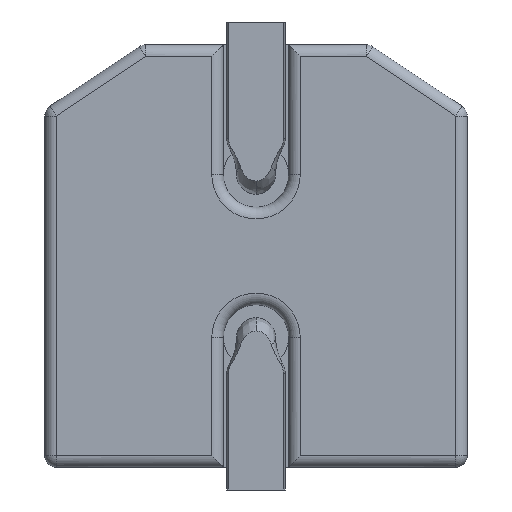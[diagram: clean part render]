
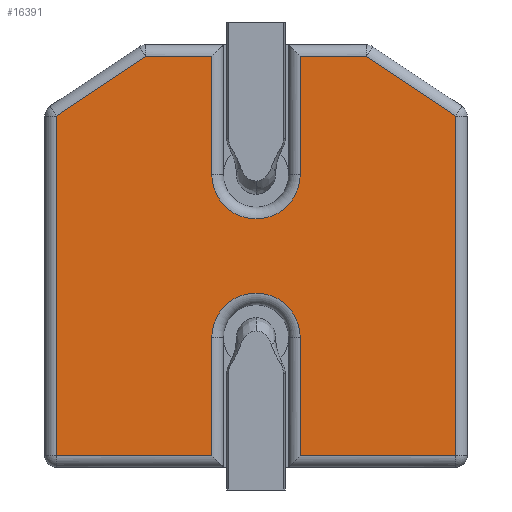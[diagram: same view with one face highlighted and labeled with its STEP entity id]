
A CAD part, left-side view. The second image highlights one B-rep face of the part: STEP entity #16391.
In plain terms, the highlighted planar face has unit normal (-1, 0, 0) as drawn and (0, -1, 0) by its records, which use the part's own axes.
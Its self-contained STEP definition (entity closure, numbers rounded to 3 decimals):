
#14966=DIRECTION('',(-0.832,0.,0.555));
#14967=VECTOR('',#14966,1.652);
#14968=CARTESIAN_POINT('',(3.07,0.,2.154));
#14969=LINE('',#14968,#14967);
#14970=DIRECTION('',(0.,0.,1.));
#14971=VECTOR('',#14970,5.224);
#14972=CARTESIAN_POINT('',(3.07,0.,-3.07));
#14973=LINE('',#14972,#14971);
#14974=DIRECTION('',(1.,0.,0.));
#14975=VECTOR('',#14974,2.39);
#14976=CARTESIAN_POINT('',(0.68,0.,-3.07));
#14977=LINE('',#14976,#14975);
#14978=DIRECTION('',(0.,0.,-1.));
#14979=VECTOR('',#14978,1.82);
#14980=CARTESIAN_POINT('',(0.68,0.,-1.25));
#14981=LINE('',#14980,#14979);
#14982=DIRECTION('',(0.,0.,1.));
#14983=VECTOR('',#14982,1.82);
#14984=CARTESIAN_POINT('',(-0.68,0.,-3.07));
#14985=LINE('',#14984,#14983);
#14986=DIRECTION('',(1.,0.,0.));
#14987=VECTOR('',#14986,2.39);
#14988=CARTESIAN_POINT('',(-3.07,0.,-3.07));
#14989=LINE('',#14988,#14987);
#14990=DIRECTION('',(0.,0.,-1.));
#14991=VECTOR('',#14990,5.224);
#14992=CARTESIAN_POINT('',(-3.07,0.,2.154));
#14993=LINE('',#14992,#14991);
#14994=DIRECTION('',(0.832,0.,0.555));
#14995=VECTOR('',#14994,1.652);
#14996=CARTESIAN_POINT('',(-3.07,0.,2.154));
#14997=LINE('',#14996,#14995);
#14998=DIRECTION('',(-1.,0.,0.));
#14999=VECTOR('',#14998,1.016);
#15000=CARTESIAN_POINT('',(-0.68,0.,3.07));
#15001=LINE('',#15000,#14999);
#15002=DIRECTION('',(0.,0.,1.));
#15003=VECTOR('',#15002,1.82);
#15004=CARTESIAN_POINT('',(-0.68,0.,1.25));
#15005=LINE('',#15004,#15003);
#15006=DIRECTION('',(0.,0.,-1.));
#15007=VECTOR('',#15006,1.82);
#15008=CARTESIAN_POINT('',(0.68,0.,3.07));
#15009=LINE('',#15008,#15007);
#15010=DIRECTION('',(-1.,0.,0.));
#15011=VECTOR('',#15010,1.016);
#15012=CARTESIAN_POINT('',(1.696,0.,3.07));
#15013=LINE('',#15012,#15011);
#15044=CARTESIAN_POINT('',(0.68,0.,3.07));
#15046=CARTESIAN_POINT('',(0.,0.,1.25));
#15047=DIRECTION('',(0.,1.,0.));
#15048=DIRECTION('',(1.,0.,0.));
#15049=AXIS2_PLACEMENT_3D('',#15046,#15047,#15048);
#15128=CARTESIAN_POINT('',(-0.68,0.,-3.07));
#15130=CARTESIAN_POINT('',(0.,0.,-1.25));
#15131=DIRECTION('',(0.,1.,0.));
#15132=DIRECTION('',(-1.,0.,0.));
#15133=AXIS2_PLACEMENT_3D('',#15130,#15131,#15132);
#15150=CARTESIAN_POINT('',(0.68,0.,-3.07));
#16178=CARTESIAN_POINT('',(-3.07,0.,-3.07));
#16180=VERTEX_POINT('',#16178);
#16189=VERTEX_POINT('',#15128);
#16190=CARTESIAN_POINT('',(3.07,0.,-3.07));
#16192=VERTEX_POINT('',#16190);
#16195=VERTEX_POINT('',#15150);
#16214=CARTESIAN_POINT('',(1.696,0.,3.07));
#16216=VERTEX_POINT('',#16214);
#16229=VERTEX_POINT('',#15044);
#16231=CARTESIAN_POINT('',(-1.696,0.,3.07));
#16233=VERTEX_POINT('',#16231);
#16274=CARTESIAN_POINT('',(3.07,0.,2.154));
#16275=VERTEX_POINT('',#16274);
#16276=CARTESIAN_POINT('',(-0.68,0.,3.07));
#16277=VERTEX_POINT('',#16276);
#16324=CARTESIAN_POINT('',(-0.68,0.,-1.25));
#16325=VERTEX_POINT('',#16324);
#16332=CARTESIAN_POINT('',(0.68,0.,-1.25));
#16333=VERTEX_POINT('',#16332);
#16336=CARTESIAN_POINT('',(-3.07,0.,2.154));
#16337=VERTEX_POINT('',#16336);
#16342=CARTESIAN_POINT('',(0.68,0.,1.25));
#16343=VERTEX_POINT('',#16342);
#16350=CARTESIAN_POINT('',(-0.68,0.,1.25));
#16351=VERTEX_POINT('',#16350);
#16356=CARTESIAN_POINT('',(0.,0.,0.));
#16357=DIRECTION('',(0.,1.,0.));
#16358=DIRECTION('',(0.,0.,1.));
#16359=AXIS2_PLACEMENT_3D('',#16356,#16357,#16358);
#16360=PLANE('',#16359);
#16362=ORIENTED_EDGE('',*,*,#16361,.F.);
#16364=ORIENTED_EDGE('',*,*,#16363,.F.);
#16366=ORIENTED_EDGE('',*,*,#16365,.F.);
#16368=ORIENTED_EDGE('',*,*,#16367,.F.);
#16370=ORIENTED_EDGE('',*,*,#16369,.F.);
#16372=ORIENTED_EDGE('',*,*,#16371,.F.);
#16374=ORIENTED_EDGE('',*,*,#16373,.F.);
#16376=ORIENTED_EDGE('',*,*,#16375,.F.);
#16378=ORIENTED_EDGE('',*,*,#16377,.T.);
#16380=ORIENTED_EDGE('',*,*,#16379,.F.);
#16382=ORIENTED_EDGE('',*,*,#16381,.F.);
#16384=ORIENTED_EDGE('',*,*,#16383,.F.);
#16386=ORIENTED_EDGE('',*,*,#16385,.F.);
#16388=ORIENTED_EDGE('',*,*,#16387,.F.);
#16389=EDGE_LOOP('',(#16362,#16364,#16366,#16368,#16370,#16372,#16374,#16376,
#16378,#16380,#16382,#16384,#16386,#16388));
#16390=FACE_OUTER_BOUND('',#16389,.F.);
#16391=ADVANCED_FACE('',(#16390),#16360,.F.);
#15050=CIRCLE('',#15049,0.68);
#15134=CIRCLE('',#15133,0.68);
#16361=EDGE_CURVE('',#16275,#16216,#14969,.T.);
#16363=EDGE_CURVE('',#16192,#16275,#14973,.T.);
#16365=EDGE_CURVE('',#16195,#16192,#14977,.T.);
#16367=EDGE_CURVE('',#16333,#16195,#14981,.T.);
#16369=EDGE_CURVE('',#16325,#16333,#15134,.T.);
#16371=EDGE_CURVE('',#16189,#16325,#14985,.T.);
#16373=EDGE_CURVE('',#16180,#16189,#14989,.T.);
#16375=EDGE_CURVE('',#16337,#16180,#14993,.T.);
#16377=EDGE_CURVE('',#16337,#16233,#14997,.T.);
#16379=EDGE_CURVE('',#16277,#16233,#15001,.T.);
#16381=EDGE_CURVE('',#16351,#16277,#15005,.T.);
#16383=EDGE_CURVE('',#16343,#16351,#15050,.T.);
#16385=EDGE_CURVE('',#16229,#16343,#15009,.T.);
#16387=EDGE_CURVE('',#16216,#16229,#15013,.T.);
